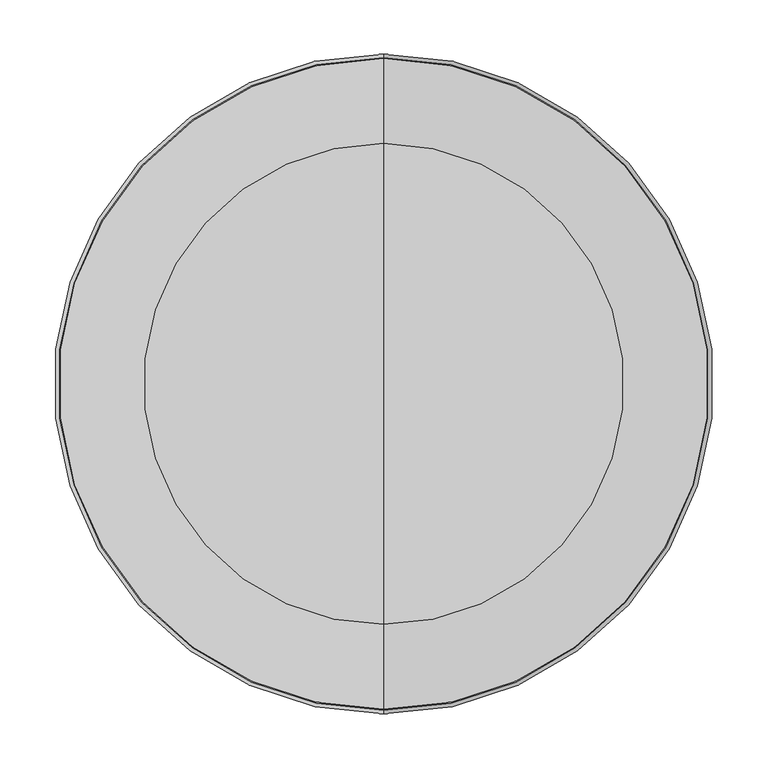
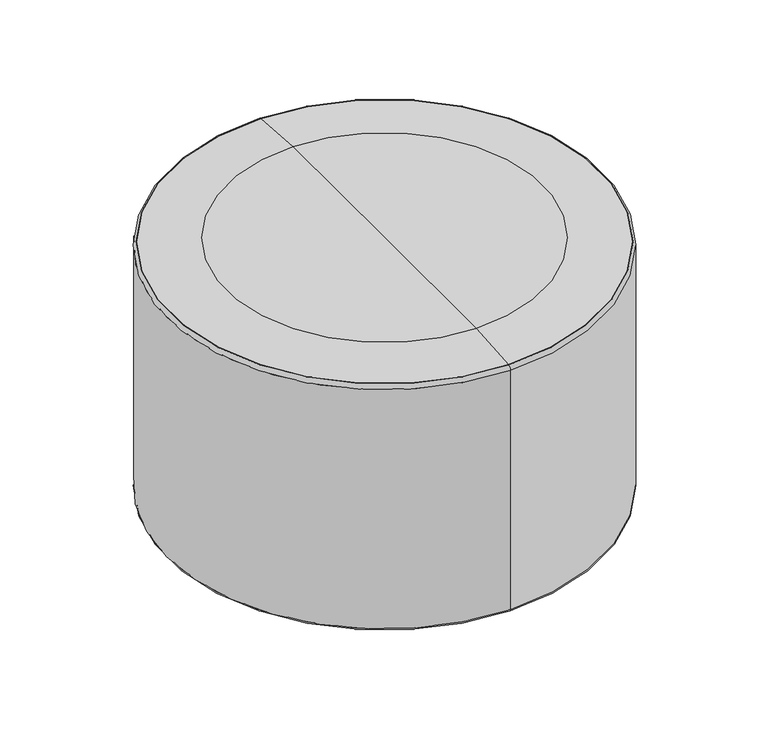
"""IFC4 building model written with IfcOpenShell, lengths in millimetres: furniture geometry, Indiana-Otty-Ottoman_Round : 840-2415RO."""

from ifc_helpers import new_model, si_unit, point, frame, origin, place, context, project, spatial, polyline, circle_curve, ellipse_curve, trimmed, source, transform, mapped, element, save
from ifc_brep_helpers import plane_surface, cylinder_surface, revolved_surface, advanced_brep


def furniture_fd76e9cd(model_context):
    return source(origin(), model_context, "Body", "AdvancedBrep", [
        advanced_brep(
        [(237.5670449, 57.5253392, 19.8875), (218.0814733, 68.7753392, 19.8875), (257.0526165, 46.2753392, 19.8875), (218.4698785, 68.5510934, 4.2458827), (256.6642112, 46.4995851, 4.2458827), (222.3541253, 66.3085225, -0.1125), (252.7799645, 48.742156, -0.1125), (228.675027, 62.6591482, -0.1125), (246.4590628, 52.3915303, -0.1125), (232.0477423, 60.7119101, 3.9179615), (243.0863475, 54.3387684, 3.9179615), (237.5670449, 57.5253392, 3.9179615)],
        [
            (0, 1),
            (1, 2, circle_curve(frame((237.5670449, 57.5253392, 19.8875), z_axis=(0.0, 0.0, 1.0), x_axis=(-0.8660254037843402, 0.5000000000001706, 0.0)), 22.5)),
            (2, 0),
            (2, 1, circle_curve(frame((237.5670449, 57.5253392, 19.8875), z_axis=(0.0, 0.0, 1.0), x_axis=(-0.8660254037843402, 0.5000000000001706, 0.0)), 22.5)),
            (1, 3),
            (3, 4, circle_curve(frame((237.5670449, 57.5253392, 4.2458827), z_axis=(0.0, 0.0, 1.0), x_axis=(-0.8660254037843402, 0.5000000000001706, 0.0)), 22.0515082)),
            (4, 2),
            (4, 3, circle_curve(frame((237.5670449, 57.5253392, 4.2458827), z_axis=(0.0, 0.0, 1.0), x_axis=(-0.8660254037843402, 0.5000000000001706, 0.0)), 22.0515082)),
            (3, 5, circle_curve(frame((222.3541253, 66.3085225, 4.3744851), z_axis=(-0.5000000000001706, -0.8660254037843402, 0.0), x_axis=(0.8660254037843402, -0.5000000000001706, 0.0)), 4.4869851)),
            (5, 6, circle_curve(frame((237.5670449, 57.5253392, -0.1125), z_axis=(0.0, 0.0, 1.0), x_axis=(-0.8660254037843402, 0.5000000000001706, 0.0)), 17.5663665)),
            (6, 4, circle_curve(frame((252.7799645, 48.742156, 4.3744851), z_axis=(-0.5000000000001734, -0.8660254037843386, 0.0), x_axis=(-0.8660254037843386, 0.5000000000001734, 0.0)), 4.4869851)),
            (6, 5, circle_curve(frame((237.5670449, 57.5253392, -0.1125), z_axis=(0.0, 0.0, 1.0), x_axis=(-0.8660254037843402, 0.5000000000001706, 0.0)), 17.5663665)),
            (5, 7),
            (7, 8, circle_curve(frame((237.5670449, 57.5253392, -0.1125), z_axis=(0.0, 0.0, 1.0), x_axis=(-0.8660254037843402, 0.5000000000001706, 0.0)), 10.2676178)),
            (8, 6),
            (8, 7, circle_curve(frame((237.5670449, 57.5253392, -0.1125), z_axis=(0.0, 0.0, 1.0), x_axis=(-0.8660254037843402, 0.5000000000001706, 0.0)), 10.2676178)),
            (7, 9, circle_curve(frame((228.675027, 62.6591482, 3.7842702), z_axis=(-0.5000000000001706, -0.8660254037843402, 0.0), x_axis=(0.8660254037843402, -0.5000000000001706, 0.0)), 3.8967702)),
            (9, 10, circle_curve(frame((237.5670449, 57.5253392, 3.9179615), z_axis=(0.0, 0.0, 1.0), x_axis=(-0.8660254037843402, 0.5000000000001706, 0.0)), 6.3731417)),
            (10, 8, circle_curve(frame((246.4590628, 52.3915303, 3.7842702), z_axis=(-0.5000000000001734, -0.8660254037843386, 0.0), x_axis=(-0.8660254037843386, 0.5000000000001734, 0.0)), 3.8967702)),
            (10, 9, circle_curve(frame((237.5670449, 57.5253392, 3.9179615), z_axis=(0.0, 0.0, 1.0), x_axis=(-0.8660254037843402, 0.5000000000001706, 0.0)), 6.3731417)),
            (9, 11),
            (11, 10),
        ],
        [
            plane_surface(frame((237.5670449, 57.5253392, 19.8875), z_axis=(0.0, 0.0, 1.0000000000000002), x_axis=(-0.8660254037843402, 0.5000000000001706, 0.0))),
            revolved_surface(polyline([(218.4698785, 68.5510934, 4.2458827), (218.0814733, 68.7753392, 19.8875)]), (237.5670449, 57.5253392, 31.0803862), (0.0, 0.0, 1.0)),
            revolved_surface(trimmed(ellipse_curve(frame((222.3541253, 66.3085225, 4.3744851), z_axis=(0.5000000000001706, 0.8660254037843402, 0.0), x_axis=(0.8660254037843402, -0.5000000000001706, 0.0)), 4.4869851, 4.4869851), [point((222.3541253, 66.3085225, -0.1125))], [point((218.4698785, 68.5510934, 4.2458827))], True, "CARTESIAN"), (237.5670449, 57.5253392, 31.0803862), (0.0, 0.0, 1.0)),
            plane_surface(frame((237.5670449, 57.5253392, -0.1125), z_axis=(0.0, 0.0, -1.0000000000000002), x_axis=(-0.8660254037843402, 0.5000000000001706, 0.0))),
            revolved_surface(trimmed(ellipse_curve(frame((228.675027, 62.6591482, 3.7842702), z_axis=(0.5000000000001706, 0.8660254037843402, 0.0), x_axis=(0.8660254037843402, -0.5000000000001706, 0.0)), 3.8967702, 3.8967702), [point((232.0477423, 60.7119101, 3.9179615))], [point((228.675027, 62.6591482, -0.1125))], True, "CARTESIAN"), (237.5670449, 57.5253392, 31.0803862), (0.0, 0.0, 1.0)),
            plane_surface(frame((237.5670449, 57.5253392, 3.9179615), z_axis=(0.0, 0.0, -1.0000000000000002), x_axis=(-0.8660254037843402, 0.5000000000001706, 0.0))),
        ],
        [
            (0, [[1, 2, 3]]),
            (0, [[-3, 4, -1]]),
            (1, [[-2, 5, 6, 7]]),
            (1, [[-4, -7, 8, -5]]),
            (2, [[-6, 9, 10, 11]]),
            (2, [[-8, -11, 12, -9]]),
            (3, [[-10, 13, 14, 15]]),
            (3, [[-12, -15, 16, -13]]),
            (4, [[-14, 17, 18, 19]]),
            (4, [[-16, -19, 20, -17]]),
            (5, [[-18, 21, 22]]),
            (5, [[-20, -22, -21]]),
        ],
    ),
        advanced_brep(
        [(168.6019276, -176.9764263, 19.8875), (168.6019276, -154.4764263, 19.8875), (168.6019276, -199.4764263, 19.8875), (168.6019276, -154.9249181, 4.2458827), (168.6019276, -199.0279346, 4.2458827), (168.6019276, -159.4100599, -0.1125), (168.6019276, -194.5427928, -0.1125), (168.6019276, -166.7088085, -0.1125), (168.6019276, -187.2440442, -0.1125), (168.6019276, -170.6032847, 3.9179615), (168.6019276, -183.349568, 3.9179615), (168.6019276, -176.9764263, 3.9179615)],
        [
            (0, 1),
            (1, 2, circle_curve(frame((168.6019276, -176.9764263, 19.8875), z_axis=(0.0, 0.0, 1.0), x_axis=(0.0, 1.0, 0.0)), 22.5)),
            (2, 0),
            (2, 1, circle_curve(frame((168.6019276, -176.9764263, 19.8875), z_axis=(0.0, 0.0, 1.0), x_axis=(0.0, 1.0, 0.0)), 22.5)),
            (1, 3),
            (3, 4, circle_curve(frame((168.6019276, -176.9764263, 4.2458827), z_axis=(0.0, 0.0, 1.0), x_axis=(0.0, 1.0, 0.0)), 22.0515082)),
            (4, 2),
            (4, 3, circle_curve(frame((168.6019276, -176.9764263, 4.2458827), z_axis=(0.0, 0.0, 1.0), x_axis=(0.0, 1.0, 0.0)), 22.0515082)),
            (3, 5, circle_curve(frame((168.6019276, -159.4100599, 4.3744851), z_axis=(-1.0, 0.0, 0.0), x_axis=(0.0, -1.0, 0.0)), 4.4869851)),
            (5, 6, circle_curve(frame((168.6019276, -176.9764263, -0.1125), z_axis=(0.0, 0.0, 1.0), x_axis=(0.0, 1.0, 0.0)), 17.5663665)),
            (6, 4, circle_curve(frame((168.6019276, -194.5427928, 4.3744851), z_axis=(-1.0, 0.0, 0.0), x_axis=(0.0, 1.0, 0.0)), 4.4869851)),
            (6, 5, circle_curve(frame((168.6019276, -176.9764263, -0.1125), z_axis=(0.0, 0.0, 1.0), x_axis=(0.0, 1.0, 0.0)), 17.5663665)),
            (5, 7),
            (7, 8, circle_curve(frame((168.6019276, -176.9764263, -0.1125), z_axis=(0.0, 0.0, 1.0), x_axis=(0.0, 1.0, 0.0)), 10.2676178)),
            (8, 6),
            (8, 7, circle_curve(frame((168.6019276, -176.9764263, -0.1125), z_axis=(0.0, 0.0, 1.0), x_axis=(0.0, 1.0, 0.0)), 10.2676178)),
            (7, 9, circle_curve(frame((168.6019276, -166.7088085, 3.7842702), z_axis=(-1.0, 0.0, 0.0), x_axis=(0.0, -1.0, 0.0)), 3.8967702)),
            (9, 10, circle_curve(frame((168.6019276, -176.9764263, 3.9179615), z_axis=(0.0, 0.0, 1.0), x_axis=(0.0, 1.0, 0.0)), 6.3731417)),
            (10, 8, circle_curve(frame((168.6019276, -187.2440442, 3.7842702), z_axis=(-1.0, 0.0, 0.0), x_axis=(0.0, 1.0, 0.0)), 3.8967702)),
            (10, 9, circle_curve(frame((168.6019276, -176.9764263, 3.9179615), z_axis=(0.0, 0.0, 1.0), x_axis=(0.0, 1.0, 0.0)), 6.3731417)),
            (9, 11),
            (11, 10),
        ],
        [
            plane_surface(frame((168.6019276, -176.9764263, 19.8875), z_axis=(0.0, 0.0, 1.0), x_axis=(0.0, 1.0, 0.0))),
            revolved_surface(polyline([(168.6019276, -154.9249181, 4.2458827), (168.6019276, -154.4764263, 19.8875)]), (168.6019276, -176.9764263, 31.0803862), (0.0, 0.0, 1.0)),
            revolved_surface(trimmed(ellipse_curve(frame((168.6019276, -159.4100599, 4.3744851), z_axis=(1.0, 0.0, 0.0), x_axis=(0.0, -1.0, 0.0)), 4.4869851, 4.4869851), [point((168.6019276, -159.4100599, -0.1125))], [point((168.6019276, -154.9249181, 4.2458827))], True, "CARTESIAN"), (168.6019276, -176.9764263, 31.0803862), (0.0, 0.0, 1.0)),
            plane_surface(frame((168.6019276, -176.9764263, -0.1125), z_axis=(0.0, 0.0, -1.0), x_axis=(0.0, 1.0, 0.0))),
            revolved_surface(trimmed(ellipse_curve(frame((168.6019276, -166.7088085, 3.7842702), z_axis=(1.0, 0.0, 0.0), x_axis=(0.0, -1.0, 0.0)), 3.8967702, 3.8967702), [point((168.6019276, -170.6032847, 3.9179615))], [point((168.6019276, -166.7088085, -0.1125))], True, "CARTESIAN"), (168.6019276, -176.9764263, 31.0803862), (0.0, 0.0, 1.0)),
            plane_surface(frame((168.6019276, -176.9764263, 3.9179615), z_axis=(0.0, 0.0, -1.0), x_axis=(0.0, 1.0, 0.0))),
        ],
        [
            (0, [[1, 2, 3]]),
            (0, [[-3, 4, -1]]),
            (1, [[-2, 5, 6, 7]]),
            (1, [[-4, -7, 8, -5]]),
            (2, [[-6, 9, 10, 11]]),
            (2, [[-8, -11, 12, -9]]),
            (3, [[-10, 13, 14, 15]]),
            (3, [[-12, -15, 16, -13]]),
            (4, [[-14, 17, 18, 19]]),
            (4, [[-16, -19, 20, -17]]),
            (5, [[-18, 21, 22]]),
            (5, [[-20, -22, -21]]),
        ],
    ),
        advanced_brep(
        [(-68.9651173, -234.5017656, 19.8875), (-49.4795457, -223.2517656, 19.8875), (-88.4506889, -245.7517656, 19.8875), (-49.867951, -223.4760115, 4.2458827), (-88.0622836, -245.5275197, 4.2458827), (-53.7521977, -225.7185823, -0.1125), (-84.1780369, -243.2849488, -0.1125), (-60.0730994, -229.3679567, -0.1125), (-77.8571352, -239.6355745, -0.1125), (-63.4458147, -231.3151948, 3.9179615), (-74.4844199, -237.6883364, 3.9179615), (-68.9651173, -234.5017656, 3.9179615)],
        [
            (0, 1),
            (1, 2, circle_curve(frame((-68.9651173, -234.5017656, 19.8875), z_axis=(0.0, 0.0, 1.0), x_axis=(0.8660254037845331, 0.49999999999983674, 0.0)), 22.5)),
            (2, 0),
            (2, 1, circle_curve(frame((-68.9651173, -234.5017656, 19.8875), z_axis=(0.0, 0.0, 1.0), x_axis=(0.8660254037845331, 0.49999999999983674, 0.0)), 22.5)),
            (1, 3),
            (3, 4, circle_curve(frame((-68.9651173, -234.5017656, 4.2458827), z_axis=(0.0, 0.0, 1.0), x_axis=(0.8660254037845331, 0.49999999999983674, 0.0)), 22.0515082)),
            (4, 2),
            (4, 3, circle_curve(frame((-68.9651173, -234.5017656, 4.2458827), z_axis=(0.0, 0.0, 1.0), x_axis=(0.8660254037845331, 0.49999999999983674, 0.0)), 22.0515082)),
            (3, 5, circle_curve(frame((-53.7521977, -225.7185823, 4.3744851), z_axis=(-0.49999999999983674, 0.8660254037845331, 0.0), x_axis=(-0.8660254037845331, -0.49999999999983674, 0.0)), 4.4869851)),
            (5, 6, circle_curve(frame((-68.9651173, -234.5017656, -0.1125), z_axis=(0.0, 0.0, 1.0), x_axis=(0.8660254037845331, 0.49999999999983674, 0.0)), 17.5663665)),
            (6, 4, circle_curve(frame((-84.1780369, -243.2849488, 4.3744851), z_axis=(-0.49999999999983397, 0.8660254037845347, 0.0), x_axis=(0.8660254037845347, 0.49999999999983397, 0.0)), 4.4869851)),
            (6, 5, circle_curve(frame((-68.9651173, -234.5017656, -0.1125), z_axis=(0.0, 0.0, 1.0), x_axis=(0.8660254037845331, 0.49999999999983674, 0.0)), 17.5663665)),
            (5, 7),
            (7, 8, circle_curve(frame((-68.9651173, -234.5017656, -0.1125), z_axis=(0.0, 0.0, 1.0), x_axis=(0.8660254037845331, 0.49999999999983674, 0.0)), 10.2676178)),
            (8, 6),
            (8, 7, circle_curve(frame((-68.9651173, -234.5017656, -0.1125), z_axis=(0.0, 0.0, 1.0), x_axis=(0.8660254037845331, 0.49999999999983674, 0.0)), 10.2676178)),
            (7, 9, circle_curve(frame((-60.0730994, -229.3679567, 3.7842702), z_axis=(-0.49999999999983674, 0.8660254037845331, 0.0), x_axis=(-0.8660254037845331, -0.49999999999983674, 0.0)), 3.8967702)),
            (9, 10, circle_curve(frame((-68.9651173, -234.5017656, 3.9179615), z_axis=(0.0, 0.0, 1.0), x_axis=(0.8660254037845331, 0.49999999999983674, 0.0)), 6.3731417)),
            (10, 8, circle_curve(frame((-77.8571352, -239.6355745, 3.7842702), z_axis=(-0.49999999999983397, 0.8660254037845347, 0.0), x_axis=(0.8660254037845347, 0.49999999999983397, 0.0)), 3.8967702)),
            (10, 9, circle_curve(frame((-68.9651173, -234.5017656, 3.9179615), z_axis=(0.0, 0.0, 1.0), x_axis=(0.8660254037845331, 0.49999999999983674, 0.0)), 6.3731417)),
            (9, 11),
            (11, 10),
        ],
        [
            plane_surface(frame((-68.9651173, -234.5017656, 19.8875), z_axis=(0.0, 0.0, 1.0000000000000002), x_axis=(0.8660254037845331, 0.49999999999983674, 0.0))),
            revolved_surface(polyline([(-49.867951, -223.4760115, 4.2458827), (-49.4795457, -223.2517656, 19.8875)]), (-68.9651173, -234.5017656, 31.0803862), (0.0, 0.0, 1.0)),
            revolved_surface(trimmed(ellipse_curve(frame((-53.7521977, -225.7185823, 4.3744851), z_axis=(0.49999999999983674, -0.8660254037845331, 0.0), x_axis=(-0.8660254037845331, -0.49999999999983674, 0.0)), 4.4869851, 4.4869851), [point((-53.7521977, -225.7185823, -0.1125))], [point((-49.867951, -223.4760115, 4.2458827))], True, "CARTESIAN"), (-68.9651173, -234.5017656, 31.0803862), (0.0, 0.0, 1.0)),
            plane_surface(frame((-68.9651173, -234.5017656, -0.1125), z_axis=(0.0, 0.0, -1.0000000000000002), x_axis=(0.8660254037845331, 0.49999999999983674, 0.0))),
            revolved_surface(trimmed(ellipse_curve(frame((-60.0730994, -229.3679567, 3.7842702), z_axis=(0.49999999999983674, -0.8660254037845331, 0.0), x_axis=(-0.8660254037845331, -0.49999999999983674, 0.0)), 3.8967702, 3.8967702), [point((-63.4458147, -231.3151948, 3.9179615))], [point((-60.0730994, -229.3679567, -0.1125))], True, "CARTESIAN"), (-68.9651173, -234.5017656, 31.0803862), (0.0, 0.0, 1.0)),
            plane_surface(frame((-68.9651173, -234.5017656, 3.9179615), z_axis=(0.0, 0.0, -1.0000000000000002), x_axis=(0.8660254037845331, 0.49999999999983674, 0.0))),
        ],
        [
            (0, [[1, 2, 3]]),
            (0, [[-3, 4, -1]]),
            (1, [[-2, 5, 6, 7]]),
            (1, [[-4, -7, 8, -5]]),
            (2, [[-6, 9, 10, 11]]),
            (2, [[-8, -11, 12, -9]]),
            (3, [[-10, 13, 14, 15]]),
            (3, [[-12, -15, 16, -13]]),
            (4, [[-14, 17, 18, 19]]),
            (4, [[-16, -19, 20, -17]]),
            (5, [[-18, 21, 22]]),
            (5, [[-20, -22, -21]]),
        ],
    ),
        advanced_brep(
        [(-237.5670449, -57.5253392, 19.8875), (-218.0814733, -68.7753392, 19.8875), (-257.0526165, -46.2753392, 19.8875), (-218.4698785, -68.5510934, 4.2458827), (-256.6642112, -46.4995851, 4.2458827), (-222.3541253, -66.3085225, -0.1125), (-252.7799645, -48.742156, -0.1125), (-228.675027, -62.6591482, -0.1125), (-246.4590628, -52.3915303, -0.1125), (-232.0477423, -60.7119101, 3.9179615), (-243.0863475, -54.3387684, 3.9179615), (-237.5670449, -57.5253392, 3.9179615)],
        [
            (0, 1),
            (1, 2, circle_curve(frame((-237.5670449, -57.5253392, 19.8875), z_axis=(0.0, 0.0, 1.0), x_axis=(0.8660254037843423, -0.500000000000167, 0.0)), 22.5)),
            (2, 0),
            (2, 1, circle_curve(frame((-237.5670449, -57.5253392, 19.8875), z_axis=(0.0, 0.0, 1.0), x_axis=(0.8660254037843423, -0.500000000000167, 0.0)), 22.5)),
            (1, 3),
            (3, 4, circle_curve(frame((-237.5670449, -57.5253392, 4.2458827), z_axis=(0.0, 0.0, 1.0), x_axis=(0.8660254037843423, -0.500000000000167, 0.0)), 22.0515082)),
            (4, 2),
            (4, 3, circle_curve(frame((-237.5670449, -57.5253392, 4.2458827), z_axis=(0.0, 0.0, 1.0), x_axis=(0.8660254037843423, -0.500000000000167, 0.0)), 22.0515082)),
            (3, 5, circle_curve(frame((-222.3541253, -66.3085225, 4.3744851), z_axis=(0.500000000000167, 0.8660254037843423, 0.0), x_axis=(-0.8660254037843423, 0.500000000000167, 0.0)), 4.4869851)),
            (5, 6, circle_curve(frame((-237.5670449, -57.5253392, -0.1125), z_axis=(0.0, 0.0, 1.0), x_axis=(0.8660254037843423, -0.500000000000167, 0.0)), 17.5663665)),
            (6, 4, circle_curve(frame((-252.7799645, -48.742156, 4.3744851), z_axis=(0.5000000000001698, 0.8660254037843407, 0.0), x_axis=(0.8660254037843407, -0.5000000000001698, 0.0)), 4.4869851)),
            (6, 5, circle_curve(frame((-237.5670449, -57.5253392, -0.1125), z_axis=(0.0, 0.0, 1.0), x_axis=(0.8660254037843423, -0.500000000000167, 0.0)), 17.5663665)),
            (5, 7),
            (7, 8, circle_curve(frame((-237.5670449, -57.5253392, -0.1125), z_axis=(0.0, 0.0, 1.0), x_axis=(0.8660254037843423, -0.500000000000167, 0.0)), 10.2676178)),
            (8, 6),
            (8, 7, circle_curve(frame((-237.5670449, -57.5253392, -0.1125), z_axis=(0.0, 0.0, 1.0), x_axis=(0.8660254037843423, -0.500000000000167, 0.0)), 10.2676178)),
            (7, 9, circle_curve(frame((-228.675027, -62.6591482, 3.7842702), z_axis=(0.500000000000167, 0.8660254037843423, 0.0), x_axis=(-0.8660254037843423, 0.500000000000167, 0.0)), 3.8967702)),
            (9, 10, circle_curve(frame((-237.5670449, -57.5253392, 3.9179615), z_axis=(0.0, 0.0, 1.0), x_axis=(0.8660254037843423, -0.500000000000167, 0.0)), 6.3731417)),
            (10, 8, circle_curve(frame((-246.4590628, -52.3915303, 3.7842702), z_axis=(0.5000000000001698, 0.8660254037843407, 0.0), x_axis=(0.8660254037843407, -0.5000000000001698, 0.0)), 3.8967702)),
            (10, 9, circle_curve(frame((-237.5670449, -57.5253392, 3.9179615), z_axis=(0.0, 0.0, 1.0), x_axis=(0.8660254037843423, -0.500000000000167, 0.0)), 6.3731417)),
            (9, 11),
            (11, 10),
        ],
        [
            plane_surface(frame((-237.5670449, -57.5253392, 19.8875), z_axis=(0.0, 0.0, 1.0000000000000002), x_axis=(0.8660254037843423, -0.500000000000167, 0.0))),
            revolved_surface(polyline([(-218.4698785, -68.5510934, 4.2458827), (-218.0814733, -68.7753392, 19.8875)]), (-237.5670449, -57.5253392, 31.0803862), (0.0, 0.0, 1.0)),
            revolved_surface(trimmed(ellipse_curve(frame((-222.3541253, -66.3085225, 4.3744851), z_axis=(-0.500000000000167, -0.8660254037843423, 0.0), x_axis=(-0.8660254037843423, 0.500000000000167, 0.0)), 4.4869851, 4.4869851), [point((-222.3541253, -66.3085225, -0.1125))], [point((-218.4698785, -68.5510934, 4.2458827))], True, "CARTESIAN"), (-237.5670449, -57.5253392, 31.0803862), (0.0, 0.0, 1.0)),
            plane_surface(frame((-237.5670449, -57.5253392, -0.1125), z_axis=(0.0, 0.0, -1.0000000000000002), x_axis=(0.8660254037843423, -0.500000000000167, 0.0))),
            revolved_surface(trimmed(ellipse_curve(frame((-228.675027, -62.6591482, 3.7842702), z_axis=(-0.500000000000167, -0.8660254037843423, 0.0), x_axis=(-0.8660254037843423, 0.500000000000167, 0.0)), 3.8967702, 3.8967702), [point((-232.0477423, -60.7119101, 3.9179615))], [point((-228.675027, -62.6591482, -0.1125))], True, "CARTESIAN"), (-237.5670449, -57.5253392, 31.0803862), (0.0, 0.0, 1.0)),
            plane_surface(frame((-237.5670449, -57.5253392, 3.9179615), z_axis=(0.0, 0.0, -1.0000000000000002), x_axis=(0.8660254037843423, -0.500000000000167, 0.0))),
        ],
        [
            (0, [[1, 2, 3]]),
            (0, [[-3, 4, -1]]),
            (1, [[-2, 5, 6, 7]]),
            (1, [[-4, -7, 8, -5]]),
            (2, [[-6, 9, 10, 11]]),
            (2, [[-8, -11, 12, -9]]),
            (3, [[-10, 13, 14, 15]]),
            (3, [[-12, -15, 16, -13]]),
            (4, [[-14, 17, 18, 19]]),
            (4, [[-16, -19, 20, -17]]),
            (5, [[-18, 21, 22]]),
            (5, [[-20, -22, -21]]),
        ],
    ),
        advanced_brep(
        [(68.9651173, 234.5017656, 19.8875), (49.4795457, 223.2517656, 19.8875), (88.4506889, 245.7517656, 19.8875), (49.867951, 223.4760115, 4.2458827), (88.0622836, 245.5275197, 4.2458827), (53.7521977, 225.7185823, -0.1125), (84.1780369, 243.2849488, -0.1125), (60.0730994, 229.3679567, -0.1125), (77.8571352, 239.6355745, -0.1125), (63.4458147, 231.3151948, 3.9179615), (74.4844199, 237.6883364, 3.9179615), (68.9651173, 234.5017656, 3.9179615)],
        [
            (0, 1),
            (1, 2, circle_curve(frame((68.9651173, 234.5017656, 19.8875), z_axis=(0.0, 0.0, 1.0), x_axis=(-0.8660254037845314, -0.49999999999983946, 0.0)), 22.5)),
            (2, 0),
            (2, 1, circle_curve(frame((68.9651173, 234.5017656, 19.8875), z_axis=(0.0, 0.0, 1.0), x_axis=(-0.8660254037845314, -0.49999999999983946, 0.0)), 22.5)),
            (1, 3),
            (3, 4, circle_curve(frame((68.9651173, 234.5017656, 4.2458827), z_axis=(0.0, 0.0, 1.0), x_axis=(-0.8660254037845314, -0.49999999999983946, 0.0)), 22.0515082)),
            (4, 2),
            (4, 3, circle_curve(frame((68.9651173, 234.5017656, 4.2458827), z_axis=(0.0, 0.0, 1.0), x_axis=(-0.8660254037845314, -0.49999999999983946, 0.0)), 22.0515082)),
            (3, 5, circle_curve(frame((53.7521977, 225.7185823, 4.3744851), z_axis=(0.49999999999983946, -0.8660254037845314, 0.0), x_axis=(0.8660254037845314, 0.49999999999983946, 0.0)), 4.4869851)),
            (5, 6, circle_curve(frame((68.9651173, 234.5017656, -0.1125), z_axis=(0.0, 0.0, 1.0), x_axis=(-0.8660254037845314, -0.49999999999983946, 0.0)), 17.5663665)),
            (6, 4, circle_curve(frame((84.1780369, 243.2849488, 4.3744851), z_axis=(0.4999999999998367, -0.8660254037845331, 0.0), x_axis=(-0.8660254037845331, -0.4999999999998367, 0.0)), 4.4869851)),
            (6, 5, circle_curve(frame((68.9651173, 234.5017656, -0.1125), z_axis=(0.0, 0.0, 1.0), x_axis=(-0.8660254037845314, -0.49999999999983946, 0.0)), 17.5663665)),
            (5, 7),
            (7, 8, circle_curve(frame((68.9651173, 234.5017656, -0.1125), z_axis=(0.0, 0.0, 1.0), x_axis=(-0.8660254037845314, -0.49999999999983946, 0.0)), 10.2676178)),
            (8, 6),
            (8, 7, circle_curve(frame((68.9651173, 234.5017656, -0.1125), z_axis=(0.0, 0.0, 1.0), x_axis=(-0.8660254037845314, -0.49999999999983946, 0.0)), 10.2676178)),
            (7, 9, circle_curve(frame((60.0730994, 229.3679567, 3.7842702), z_axis=(0.49999999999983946, -0.8660254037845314, 0.0), x_axis=(0.8660254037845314, 0.49999999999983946, 0.0)), 3.8967702)),
            (9, 10, circle_curve(frame((68.9651173, 234.5017656, 3.9179615), z_axis=(0.0, 0.0, 1.0), x_axis=(-0.8660254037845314, -0.49999999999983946, 0.0)), 6.3731417)),
            (10, 8, circle_curve(frame((77.8571352, 239.6355745, 3.7842702), z_axis=(0.4999999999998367, -0.8660254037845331, 0.0), x_axis=(-0.8660254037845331, -0.4999999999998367, 0.0)), 3.8967702)),
            (10, 9, circle_curve(frame((68.9651173, 234.5017656, 3.9179615), z_axis=(0.0, 0.0, 1.0), x_axis=(-0.8660254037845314, -0.49999999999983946, 0.0)), 6.3731417)),
            (9, 11),
            (11, 10),
        ],
        [
            plane_surface(frame((68.9651173, 234.5017656, 19.8875), z_axis=(0.0, 0.0, 1.0), x_axis=(-0.8660254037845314, -0.49999999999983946, 0.0))),
            revolved_surface(polyline([(49.867951, 223.4760115, 4.2458827), (49.4795457, 223.2517656, 19.8875)]), (68.9651173, 234.5017656, 31.0803862), (0.0, 0.0, 1.0)),
            revolved_surface(trimmed(ellipse_curve(frame((53.7521977, 225.7185823, 4.3744851), z_axis=(-0.49999999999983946, 0.8660254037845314, 0.0), x_axis=(0.8660254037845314, 0.49999999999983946, 0.0)), 4.4869851, 4.4869851), [point((53.7521977, 225.7185823, -0.1125))], [point((49.867951, 223.4760115, 4.2458827))], True, "CARTESIAN"), (68.9651173, 234.5017656, 31.0803862), (0.0, 0.0, 1.0)),
            plane_surface(frame((68.9651173, 234.5017656, -0.1125), z_axis=(0.0, 0.0, -1.0), x_axis=(-0.8660254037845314, -0.49999999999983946, 0.0))),
            revolved_surface(trimmed(ellipse_curve(frame((60.0730994, 229.3679567, 3.7842702), z_axis=(-0.49999999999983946, 0.8660254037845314, 0.0), x_axis=(0.8660254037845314, 0.49999999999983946, 0.0)), 3.8967702, 3.8967702), [point((63.4458147, 231.3151948, 3.9179615))], [point((60.0730994, 229.3679567, -0.1125))], True, "CARTESIAN"), (68.9651173, 234.5017656, 31.0803862), (0.0, 0.0, 1.0)),
            plane_surface(frame((68.9651173, 234.5017656, 3.9179615), z_axis=(0.0, 0.0, -1.0), x_axis=(-0.8660254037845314, -0.49999999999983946, 0.0))),
        ],
        [
            (0, [[1, 2, 3]]),
            (0, [[-3, 4, -1]]),
            (1, [[-2, 5, 6, 7]]),
            (1, [[-4, -7, 8, -5]]),
            (2, [[-6, 9, 10, 11]]),
            (2, [[-8, -11, 12, -9]]),
            (3, [[-10, 13, 14, 15]]),
            (3, [[-12, -15, 16, -13]]),
            (4, [[-14, 17, 18, 19]]),
            (4, [[-16, -19, 20, -17]]),
            (5, [[-18, 21, 22]]),
            (5, [[-20, -22, -21]]),
        ],
    ),
        advanced_brep(
        [(-168.6019276, 176.9764263, 19.8875), (-168.6019276, 154.4764263, 19.8875), (-168.6019276, 199.4764263, 19.8875), (-168.6019276, 154.9249181, 4.2458827), (-168.6019276, 199.0279346, 4.2458827), (-168.6019276, 159.4100599, -0.1125), (-168.6019276, 194.5427928, -0.1125), (-168.6019276, 166.7088085, -0.1125), (-168.6019276, 187.2440442, -0.1125), (-168.6019276, 170.6032847, 3.9179615), (-168.6019276, 183.349568, 3.9179615), (-168.6019276, 176.9764263, 3.9179615)],
        [
            (0, 1),
            (1, 2, circle_curve(frame((-168.6019276, 176.9764263, 19.8875), z_axis=(0.0, 0.0, 1.0), x_axis=(0.0, -1.0, 0.0)), 22.5)),
            (2, 0),
            (2, 1, circle_curve(frame((-168.6019276, 176.9764263, 19.8875), z_axis=(0.0, 0.0, 1.0), x_axis=(0.0, -1.0, 0.0)), 22.5)),
            (1, 3),
            (3, 4, circle_curve(frame((-168.6019276, 176.9764263, 4.2458827), z_axis=(0.0, 0.0, 1.0), x_axis=(0.0, -1.0, 0.0)), 22.0515082)),
            (4, 2),
            (4, 3, circle_curve(frame((-168.6019276, 176.9764263, 4.2458827), z_axis=(0.0, 0.0, 1.0), x_axis=(0.0, -1.0, 0.0)), 22.0515082)),
            (3, 5, circle_curve(frame((-168.6019276, 159.4100599, 4.3744851), z_axis=(1.0, 0.0, 0.0), x_axis=(0.0, 1.0, 0.0)), 4.4869851)),
            (5, 6, circle_curve(frame((-168.6019276, 176.9764263, -0.1125), z_axis=(0.0, 0.0, 1.0), x_axis=(0.0, -1.0, 0.0)), 17.5663665)),
            (6, 4, circle_curve(frame((-168.6019276, 194.5427928, 4.3744851), z_axis=(1.0, 0.0, 0.0), x_axis=(0.0, -1.0, 0.0)), 4.4869851)),
            (6, 5, circle_curve(frame((-168.6019276, 176.9764263, -0.1125), z_axis=(0.0, 0.0, 1.0), x_axis=(0.0, -1.0, 0.0)), 17.5663665)),
            (5, 7),
            (7, 8, circle_curve(frame((-168.6019276, 176.9764263, -0.1125), z_axis=(0.0, 0.0, 1.0), x_axis=(0.0, -1.0, 0.0)), 10.2676178)),
            (8, 6),
            (8, 7, circle_curve(frame((-168.6019276, 176.9764263, -0.1125), z_axis=(0.0, 0.0, 1.0), x_axis=(0.0, -1.0, 0.0)), 10.2676178)),
            (7, 9, circle_curve(frame((-168.6019276, 166.7088085, 3.7842702), z_axis=(1.0, 0.0, 0.0), x_axis=(0.0, 1.0, 0.0)), 3.8967702)),
            (9, 10, circle_curve(frame((-168.6019276, 176.9764263, 3.9179615), z_axis=(0.0, 0.0, 1.0), x_axis=(0.0, -1.0, 0.0)), 6.3731417)),
            (10, 8, circle_curve(frame((-168.6019276, 187.2440442, 3.7842702), z_axis=(1.0, 0.0, 0.0), x_axis=(0.0, -1.0, 0.0)), 3.8967702)),
            (10, 9, circle_curve(frame((-168.6019276, 176.9764263, 3.9179615), z_axis=(0.0, 0.0, 1.0), x_axis=(0.0, -1.0, 0.0)), 6.3731417)),
            (9, 11),
            (11, 10),
        ],
        [
            plane_surface(frame((-168.6019276, 176.9764263, 19.8875), z_axis=(0.0, 0.0, 1.0), x_axis=(0.0, -1.0, 0.0))),
            revolved_surface(polyline([(-168.6019276, 154.9249181, 4.2458827), (-168.6019276, 154.4764263, 19.8875)]), (-168.6019276, 176.9764263, 31.0803862), (0.0, 0.0, 1.0)),
            revolved_surface(trimmed(ellipse_curve(frame((-168.6019276, 159.4100599, 4.3744851), z_axis=(-1.0, 0.0, 0.0), x_axis=(0.0, 1.0, 0.0)), 4.4869851, 4.4869851), [point((-168.6019276, 159.4100599, -0.1125))], [point((-168.6019276, 154.9249181, 4.2458827))], True, "CARTESIAN"), (-168.6019276, 176.9764263, 31.0803862), (0.0, 0.0, 1.0)),
            plane_surface(frame((-168.6019276, 176.9764263, -0.1125), z_axis=(0.0, 0.0, -1.0), x_axis=(0.0, -1.0, 0.0))),
            revolved_surface(trimmed(ellipse_curve(frame((-168.6019276, 166.7088085, 3.7842702), z_axis=(-1.0, 0.0, 0.0), x_axis=(0.0, 1.0, 0.0)), 3.8967702, 3.8967702), [point((-168.6019276, 170.6032847, 3.9179615))], [point((-168.6019276, 166.7088085, -0.1125))], True, "CARTESIAN"), (-168.6019276, 176.9764263, 31.0803862), (0.0, 0.0, 1.0)),
            plane_surface(frame((-168.6019276, 176.9764263, 3.9179615), z_axis=(0.0, 0.0, -1.0), x_axis=(0.0, -1.0, 0.0))),
        ],
        [
            (0, [[1, 2, 3]]),
            (0, [[-3, 4, -1]]),
            (1, [[-2, 5, 6, 7]]),
            (1, [[-4, -7, 8, -5]]),
            (2, [[-6, 9, 10, 11]]),
            (2, [[-8, -11, 12, -9]]),
            (3, [[-10, 13, 14, 15]]),
            (3, [[-12, -15, 16, -13]]),
            (4, [[-14, 17, 18, 19]]),
            (4, [[-16, -19, 20, -17]]),
            (5, [[-18, 21, 22]]),
            (5, [[-20, -22, -21]]),
        ],
    ),
        advanced_brep(
        [(0.0, 304.8, 14.675), (0.0, 301.625, 11.5), (0.0, -301.625, 11.5), (0.0, -304.8, 14.675), (0.0, 304.8, 369.0), (0.0, -304.8, 369.0), (0.0, 301.5317905, 375.2073863), (0.0, -301.5317905, 375.2073863), (0.0, 300.8, 374.9999966), (0.0, -300.8, 374.9999966), (0.0, 222.25, 381.0), (0.0, -222.25, 381.0), (0.0, 0.0, 381.0), (0.0, 0.0, 11.5), (-249.0764199, -77.4601615, 11.5), (-226.0576699, -37.590517, 11.5), (-57.4557423, -254.4365878, 11.5), (-80.4744923, -214.5669433, 11.5), (-191.6206776, 176.9764263, 11.5), (-145.5831776, 176.9764263, 11.5), (57.4557423, 254.4365878, 11.5), (80.4744923, 214.5669433, 11.5), (191.6206776, -176.9764263, 11.5), (145.5831776, -176.9764263, 11.5), (249.0764199, 77.4601615, 11.5), (226.0576699, 37.590517, 11.5), (-226.0576699, -37.590517, 19.834375), (-249.0764199, -77.4601615, 19.834375), (-80.4744923, -214.5669433, 19.834375), (-57.4557423, -254.4365878, 19.834375), (80.4744923, 214.5669433, 19.834375), (57.4557423, 254.4365878, 19.834375), (-145.5831776, 176.9764263, 19.834375), (-191.6206776, 176.9764263, 19.834375), (145.5831776, -176.9764263, 19.834375), (191.6206776, -176.9764263, 19.834375), (226.0576699, 37.590517, 19.834375), (249.0764199, 77.4601615, 19.834375)],
        [
            (0, 1, circle_curve(frame((0.0, 301.625, 14.675), z_axis=(-1.0, 0.0, 0.0), x_axis=(0.0, 1.0, 0.0)), 3.175)),
            (1, 2, circle_curve(frame((0.0, 0.0, 11.5), z_axis=(0.0, 0.0, 1.0), x_axis=(0.0, 1.0, 0.0)), 301.625)),
            (2, 3, circle_curve(frame((0.0, -301.625, 14.675), z_axis=(-1.0, 0.0, 0.0), x_axis=(0.0, -1.0, 0.0)), 3.175)),
            (3, 0, circle_curve(frame((0.0, 0.0, 14.675), z_axis=(0.0, 0.0, -1.0), x_axis=(0.0, 1.0, 0.0)), 304.8)),
            (0, 3, circle_curve(frame((0.0, 0.0, 14.675), z_axis=(0.0, 0.0, -1.0), x_axis=(0.0, 1.0, 0.0)), 304.8)),
            (2, 1, circle_curve(frame((0.0, 0.0, 11.5), z_axis=(0.0, 0.0, 1.0), x_axis=(0.0, 1.0, 0.0)), 301.625)),
            (4, 0),
            (3, 5),
            (5, 4, circle_curve(frame((0.0, 0.0, 369.0), z_axis=(0.0, 0.0, -1.0), x_axis=(0.0, 1.0, 0.0)), 304.8)),
            (4, 5, circle_curve(frame((0.0, 0.0, 369.0), z_axis=(0.0, 0.0, -1.0), x_axis=(0.0, 1.0, 0.0)), 304.8)),
            (6, 4, circle_curve(frame((0.0, 297.2709786, 369.0), z_axis=(-1.0, 0.0, 0.0), x_axis=(0.0, 1.0, 0.0)), 7.5290214)),
            (5, 7, circle_curve(frame((0.0, -297.2709786, 369.0), z_axis=(-1.0, 0.0, 0.0), x_axis=(0.0, -1.0, 0.0)), 7.5290214)),
            (7, 6, circle_curve(frame((0.0, 0.0, 375.2073863), z_axis=(0.0, 0.0, -1.0), x_axis=(0.0, 1.0, 0.0)), 301.5317905)),
            (6, 7, circle_curve(frame((0.0, 0.0, 375.2073863), z_axis=(0.0, 0.0, -1.0), x_axis=(0.0, 1.0, 0.0)), 301.5317905)),
            (8, 6, circle_curve(frame((0.0, 301.2520185, 374.799799), z_axis=(-1.0, 0.0, 0.0), x_axis=(0.0, 1.0, 0.0)), 0.4943681)),
            (7, 9, circle_curve(frame((0.0, -301.2520185, 374.799799), z_axis=(-1.0, 0.0, 0.0), x_axis=(0.0, -1.0, 0.0)), 0.4943681)),
            (9, 8, circle_curve(frame((0.0, 0.0, 374.9999966), z_axis=(0.0, 0.0, -1.0), x_axis=(0.0, 1.0, 0.0)), 300.8)),
            (8, 9, circle_curve(frame((0.0, 0.0, 374.9999966), z_axis=(0.0, 0.0, -1.0), x_axis=(0.0, 1.0, 0.0)), 300.8)),
            (10, 8, circle_curve(frame((0.0, 222.25, -136.1749222), z_axis=(-1.0, 0.0, 0.0), x_axis=(0.0, 1.0, 0.0)), 517.1749222)),
            (9, 11, circle_curve(frame((0.0, -222.25, -136.1749222), z_axis=(-1.0, 0.0, 0.0), x_axis=(0.0, -1.0, 0.0)), 517.1749222)),
            (11, 10, circle_curve(frame((0.0, 0.0, 381.0), z_axis=(0.0, 0.0, -1.0), x_axis=(0.0, 1.0, 0.0)), 222.25)),
            (10, 11, circle_curve(frame((0.0, 0.0, 381.0), z_axis=(0.0, 0.0, -1.0), x_axis=(0.0, 1.0, 0.0)), 222.25)),
            (12, 10),
            (11, 12),
            (1, 13),
            (13, 2),
            (14, 15, circle_curve(frame((-237.5670449, -57.5253392, 11.5), z_axis=(0.0, 0.0, 1.0), x_axis=(-0.500000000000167, -0.8660254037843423, 0.0)), 23.01875)),
            (15, 14, circle_curve(frame((-237.5670449, -57.5253392, 11.5), z_axis=(0.0, 0.0, 1.0), x_axis=(-0.500000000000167, -0.8660254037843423, 0.0)), 23.01875)),
            (16, 17, circle_curve(frame((-68.9651173, -234.5017656, 11.5), z_axis=(0.0, 0.0, 1.0), x_axis=(0.49999999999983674, -0.8660254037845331, 0.0)), 23.01875)),
            (17, 16, circle_curve(frame((-68.9651173, -234.5017656, 11.5), z_axis=(0.0, 0.0, 1.0), x_axis=(0.49999999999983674, -0.8660254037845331, 0.0)), 23.01875)),
            (18, 19, circle_curve(frame((-168.6019276, 176.9764263, 11.5), z_axis=(0.0, 0.0, 1.0), x_axis=(-1.0, 0.0, 0.0)), 23.01875)),
            (19, 18, circle_curve(frame((-168.6019276, 176.9764263, 11.5), z_axis=(0.0, 0.0, 1.0), x_axis=(-1.0, 0.0, 0.0)), 23.01875)),
            (20, 21, circle_curve(frame((68.9651173, 234.5017656, 11.5), z_axis=(0.0, 0.0, 1.0), x_axis=(-0.49999999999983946, 0.8660254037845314, 0.0)), 23.01875)),
            (21, 20, circle_curve(frame((68.9651173, 234.5017656, 11.5), z_axis=(0.0, 0.0, 1.0), x_axis=(-0.49999999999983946, 0.8660254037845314, 0.0)), 23.01875)),
            (22, 23, circle_curve(frame((168.6019276, -176.9764263, 11.5), z_axis=(0.0, 0.0, 1.0), x_axis=(1.0, 0.0, 0.0)), 23.01875)),
            (23, 22, circle_curve(frame((168.6019276, -176.9764263, 11.5), z_axis=(0.0, 0.0, 1.0), x_axis=(1.0, 0.0, 0.0)), 23.01875)),
            (24, 25, circle_curve(frame((237.5670449, 57.5253392, 11.5), z_axis=(0.0, 0.0, 1.0), x_axis=(0.5000000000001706, 0.8660254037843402, 0.0)), 23.01875)),
            (25, 24, circle_curve(frame((237.5670449, 57.5253392, 11.5), z_axis=(0.0, 0.0, 1.0), x_axis=(0.5000000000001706, 0.8660254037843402, 0.0)), 23.01875)),
            (26, 27, circle_curve(frame((-237.5670449, -57.5253392, 19.834375), z_axis=(0.0, 0.0, -1.0), x_axis=(-0.500000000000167, -0.8660254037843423, 0.0)), 23.01875)),
            (27, 26, circle_curve(frame((-237.5670449, -57.5253392, 19.834375), z_axis=(0.0, 0.0, -1.0), x_axis=(-0.500000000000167, -0.8660254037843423, 0.0)), 23.01875)),
            (26, 15),
            (14, 27),
            (28, 29, circle_curve(frame((-68.9651173, -234.5017656, 19.834375), z_axis=(0.0, 0.0, -1.0), x_axis=(0.49999999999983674, -0.8660254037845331, 0.0)), 23.01875)),
            (29, 28, circle_curve(frame((-68.9651173, -234.5017656, 19.834375), z_axis=(0.0, 0.0, -1.0), x_axis=(0.49999999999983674, -0.8660254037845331, 0.0)), 23.01875)),
            (28, 17),
            (16, 29),
            (30, 31, circle_curve(frame((68.9651173, 234.5017656, 19.834375), z_axis=(0.0, 0.0, -1.0), x_axis=(-0.49999999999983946, 0.8660254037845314, 0.0)), 23.01875)),
            (31, 30, circle_curve(frame((68.9651173, 234.5017656, 19.834375), z_axis=(0.0, 0.0, -1.0), x_axis=(-0.49999999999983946, 0.8660254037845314, 0.0)), 23.01875)),
            (30, 21),
            (20, 31),
            (32, 33, circle_curve(frame((-168.6019276, 176.9764263, 19.834375), z_axis=(0.0, 0.0, -1.0), x_axis=(-1.0, 0.0, 0.0)), 23.01875)),
            (33, 32, circle_curve(frame((-168.6019276, 176.9764263, 19.834375), z_axis=(0.0, 0.0, -1.0), x_axis=(-1.0, 0.0, 0.0)), 23.01875)),
            (32, 19),
            (18, 33),
            (34, 35, circle_curve(frame((168.6019276, -176.9764263, 19.834375), z_axis=(0.0, 0.0, -1.0), x_axis=(1.0, 0.0, 0.0)), 23.01875)),
            (35, 34, circle_curve(frame((168.6019276, -176.9764263, 19.834375), z_axis=(0.0, 0.0, -1.0), x_axis=(1.0, 0.0, 0.0)), 23.01875)),
            (34, 23),
            (22, 35),
            (36, 37, circle_curve(frame((237.5670449, 57.5253392, 19.834375), z_axis=(0.0, 0.0, -1.0), x_axis=(0.5000000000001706, 0.8660254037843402, 0.0)), 23.01875)),
            (37, 36, circle_curve(frame((237.5670449, 57.5253392, 19.834375), z_axis=(0.0, 0.0, -1.0), x_axis=(0.5000000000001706, 0.8660254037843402, 0.0)), 23.01875)),
            (36, 25),
            (24, 37),
        ],
        [
            revolved_surface(trimmed(ellipse_curve(frame((0.0, 301.625, 14.675), z_axis=(1.0, 0.0, 0.0), x_axis=(0.0, 1.0, 0.0)), 3.175, 3.175), [point((0.0, 301.625, 11.5))], [point((0.0, 304.8, 14.675))], True, "CARTESIAN"), (0.0, 0.0, 635.0), (0.0, 0.0, 1.0)),
            cylinder_surface(frame((0.0, 0.0, 635.0), z_axis=(0.0, 0.0, 1.0), x_axis=(0.0, 1.0, 0.0)), 304.8),
            revolved_surface(trimmed(ellipse_curve(frame((0.0, 297.2709786, 369.0), z_axis=(1.0, 0.0, 0.0), x_axis=(0.0, 1.0, 0.0)), 7.5290214, 7.5290214), [point((0.0, 304.8, 369.0))], [point((0.0, 301.5317905, 375.2073863))], True, "CARTESIAN"), (0.0, 0.0, 635.0), (0.0, 0.0, 1.0)),
            revolved_surface(trimmed(ellipse_curve(frame((0.0, 301.2520185, 374.799799), z_axis=(1.0, 0.0, 0.0), x_axis=(0.0, 1.0, 0.0)), 0.4943681, 0.4943681), [point((0.0, 301.5317905, 375.2073863))], [point((0.0, 300.8, 374.9999966))], True, "CARTESIAN"), (0.0, 0.0, 635.0), (0.0, 0.0, 1.0)),
            revolved_surface(trimmed(ellipse_curve(frame((0.0, 222.25, -136.1749222), z_axis=(1.0, 0.0, 0.0), x_axis=(0.0, 1.0, 0.0)), 517.1749222, 517.1749222), [point((0.0, 300.8, 374.9999966))], [point((0.0, 222.25, 381.0))], True, "CARTESIAN"), (0.0, 0.0, 635.0), (0.0, 0.0, 1.0)),
            plane_surface(frame((0.0, 0.0, 381.0), z_axis=(0.0, 0.0, 1.0), x_axis=(0.0, 1.0, 0.0))),
            plane_surface(frame((0.0, 0.0, 11.5), z_axis=(0.0, 0.0, -1.0), x_axis=(0.0, 1.0, 0.0))),
            plane_surface(frame((-249.0764199, -77.4601615, 19.834375), z_axis=(0.0, 0.0, -1.0000000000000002), x_axis=(0.8660254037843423, -0.500000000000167, 0.0))),
            revolved_surface(polyline([(-249.07641990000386, -77.46016146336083, 11.5), (-249.07641990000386, -77.46016146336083, 19.834375)]), (-237.5670449, -57.5253392, 19.834375), (0.0, 0.0, -1.0)),
            plane_surface(frame((-57.4557423, -254.4365878, 19.834375), z_axis=(0.0, 0.0, -1.0000000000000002), x_axis=(0.8660254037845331, 0.49999999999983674, 0.0))),
            revolved_surface(polyline([(-57.45574230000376, -254.43658786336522, 11.5), (-57.45574230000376, -254.43658786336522, 19.834375)]), (-68.9651173, -234.5017656, 19.834375), (0.0, 0.0, -1.0)),
            plane_surface(frame((57.4557423, 254.4365878, 19.834375), z_axis=(0.0, 0.0, -1.0), x_axis=(-0.8660254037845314, -0.49999999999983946, 0.0))),
            revolved_surface(polyline([(57.4557423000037, 254.4365878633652, 11.5), (57.4557423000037, 254.4365878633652, 19.834375)]), (68.9651173, 234.5017656, 19.834375), (0.0, 0.0, -1.0)),
            plane_surface(frame((-191.6206776, 176.9764263, 19.834375), z_axis=(0.0, 0.0, -1.0), x_axis=(0.0, -1.0, 0.0))),
            revolved_surface(polyline([(-191.62067760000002, 176.9764263, 11.5), (-191.62067760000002, 176.9764263, 19.834375)]), (-168.6019276, 176.9764263, 19.834375), (0.0, 0.0, -1.0)),
            plane_surface(frame((191.6206776, -176.9764263, 19.834375), z_axis=(0.0, 0.0, -1.0), x_axis=(0.0, 1.0, 0.0))),
            revolved_surface(polyline([(191.62067760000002, -176.9764263, 11.5), (191.62067760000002, -176.9764263, 19.834375)]), (168.6019276, -176.9764263, 19.834375), (0.0, 0.0, -1.0)),
            plane_surface(frame((249.0764199, 77.4601615, 19.834375), z_axis=(0.0, 0.0, -1.0000000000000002), x_axis=(-0.8660254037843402, 0.5000000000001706, 0.0))),
            revolved_surface(polyline([(249.07641990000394, 77.46016146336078, 11.5), (249.07641990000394, 77.46016146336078, 19.834375)]), (237.5670449, 57.5253392, 19.834375), (0.0, 0.0, -1.0)),
        ],
        [
            (0, [[1, 2, 3, 4]]),
            (0, [[-1, 5, -3, 6]]),
            (1, [[7, -4, 8, 9]]),
            (1, [[-7, 10, -8, -5]]),
            (2, [[11, -9, 12, 13]]),
            (2, [[-11, 14, -12, -10]]),
            (3, [[15, -13, 16, 17]]),
            (3, [[-15, 18, -16, -14]]),
            (4, [[19, -17, 20, 21]]),
            (4, [[-19, 22, -20, -18]]),
            (5, [[23, -21, 24]]),
            (5, [[-23, -24, -22]]),
            (6, [[25, 26, -2], [27, 28], [29, 30], [31, 32]]),
            (6, [[-25, -6, -26], [33, 34], [35, 36], [37, 38]]),
            (7, [[39, 40]]),
            (8, [[-39, 41, -27, 42]]),
            (8, [[-40, -42, -28, -41]]),
            (9, [[43, 44]]),
            (10, [[-43, 45, -29, 46]]),
            (10, [[-44, -46, -30, -45]]),
            (11, [[47, 48]]),
            (12, [[-47, 49, -33, 50]]),
            (12, [[-48, -50, -34, -49]]),
            (13, [[51, 52]]),
            (14, [[-51, 53, -31, 54]]),
            (14, [[-52, -54, -32, -53]]),
            (15, [[55, 56]]),
            (16, [[-55, 57, -35, 58]]),
            (16, [[-56, -58, -36, -57]]),
            (17, [[59, 60]]),
            (18, [[-59, 61, -37, 62]]),
            (18, [[-60, -62, -38, -61]]),
        ],
    ),
    ])


if __name__ == "__main__":
    model = new_model("IFC4")
    model_context = context("Model", 3, world=origin())
    ifc_project = project(units=[si_unit("LENGTHUNIT", "METRE", prefix="MILLI")], contexts=[model_context])
    site = spatial("IfcSite", under=ifc_project)
    building = spatial("IfcBuilding", under=site)
    placement = place(None, origin())
    furniture_shape = furniture_fd76e9cd(model_context)
    element("IfcFurniture", 1, ObjectType="Indiana-Otty-Ottoman_Round : 840-2415RO", at=placement, inside=building, context=model_context, shape_type="MappedRepresentation", body=[
        mapped(furniture_shape, transform((0.0, 0.0, 0.0), x_axis=(1.0, 0.0, 0.0), y_axis=(0.0, 1.0, 0.0), z_axis=(0.0, 0.0, 1.0))),
    ])
    save(model, "model.ifc")
